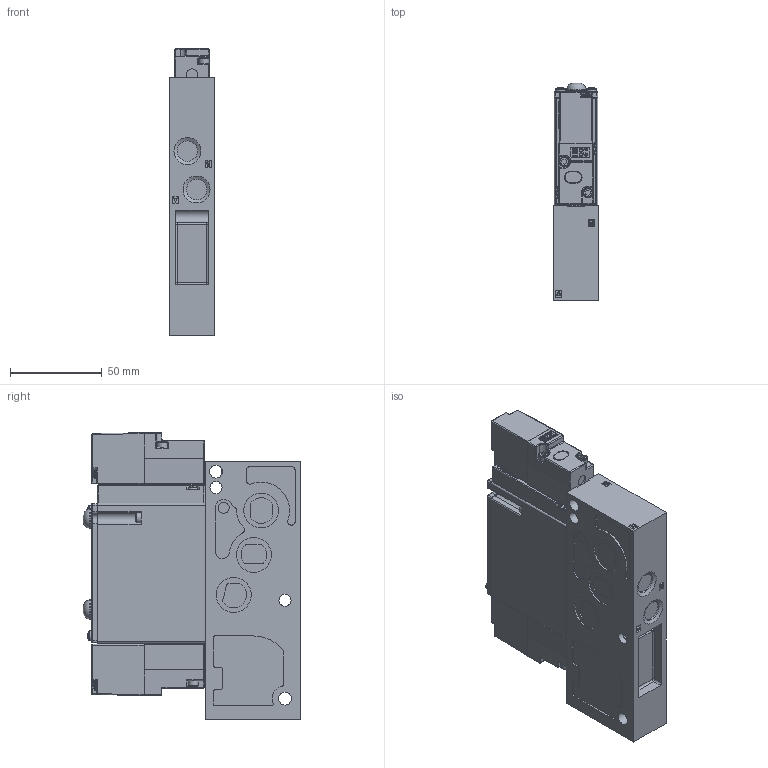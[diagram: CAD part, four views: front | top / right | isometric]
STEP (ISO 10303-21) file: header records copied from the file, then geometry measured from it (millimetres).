
FILE_DESCRIPTION (( 'STEP AP214' ), '1' );
FILE_NAME ('92A-BAA-B2K-DM-DXXP-1DM.STEP', '2019-07-05T15:21:33', ( 'user' ), ( '' ), 'SwSTEP 2.0', 'SolidWorks 2014', '' );
FILE_SCHEMA (( 'AUTOMOTIVE_DESIGN' ));
Length unit declared in the file: millimetre
Products named in the file (6): 92-PILOT-DM3; 92-BODY-BAA; 92-OVERRIDE-1; 92-OPERATOR-DXXP-YDM; 92-BASE-B2J; 92A-BAA-B2K-DM-DXXP-1DM
Assembly tree (8 placements, depth 2):
  92A-BAA-B2K-DM-DXXP-1DM
    92-BASE-B2J
    92-OPERATOR-DXXP-YDM  x2
    92-OVERRIDE-1  x2
    92-BODY-BAA
    92-PILOT-DM3  x2
Bounding box: 25 x 118.6 x 156.5 mm (x, y, z)
Volume: 347542.5 mm3; surface area: 85885.6 mm2
Topology: 34 solids, 36 shells, 2812 faces, 7229 edges, 4685 vertices
Faces by surface type: plane 1536, cylinder 841, cone 251, bspline 77, torus 54, sphere 53
Full cylindrical faces by diameter (mm): 0.01 x4, 0.72 x2, 0.85 x2, 0.95 x4, 1 x2, 2 x4, 2.2 x2, 2.4 x6, 2.5 x2, 2.6 x4, 2.7 x2, 2.79 x4, 3 x12, 3.15 x4, 3.25 x4, 3.3 x4, 3.35 x4, 4.775 x4, 5 x2, 5.1 x2, 5.5 x10, 5.6 x2, 6 x1, 6.22 x2, 6.6 x3, 6.8 x4, 6.92 x2, 7 x4, 9.5 x3, 10.13 x2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
Entity records: 88332 total; most frequent: CARTESIAN_POINT 14554, DIRECTION 10551, ORIENTED_EDGE 10318, EDGE_CURVE 5159, AXIS2_PLACEMENT_3D 3665, VERTEX_POINT 3456, LINE 3221, VECTOR 3221
